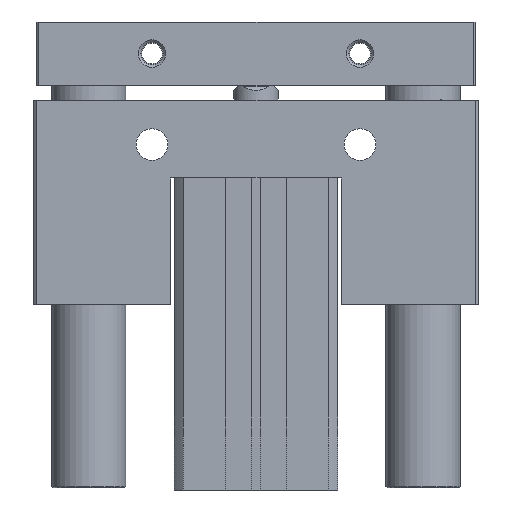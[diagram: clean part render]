
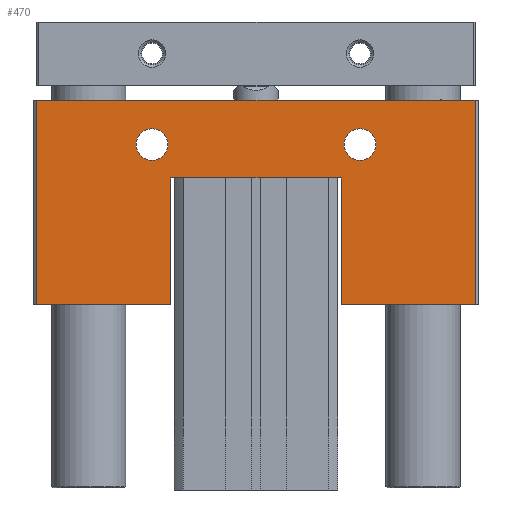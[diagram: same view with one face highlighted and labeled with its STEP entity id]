
A CAD part, front view. The second image highlights one B-rep face of the part: STEP entity #470.
In plain terms, the highlighted planar face has unit normal (0, -1, 0).
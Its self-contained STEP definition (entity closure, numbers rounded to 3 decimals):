
#199=CARTESIAN_POINT('',(-62.726,-23.62,105.));
#200=VERTEX_POINT('',#199);
#207=CARTESIAN_POINT('',(55.274,-23.62,105.));
#208=VERTEX_POINT('',#207);
#209=CARTESIAN_POINT('',(-62.726,-23.62,105.));
#210=DIRECTION('',(1.0,0.0,0.0));
#211=VECTOR('',#210,118.);
#212=LINE('',#209,#211);
#213=EDGE_CURVE('',#200,#208,#212,.T.);
#376=CARTESIAN_POINT('',(-62.726,-23.62,50.));
#377=VERTEX_POINT('',#376);
#384=CARTESIAN_POINT('',(-62.726,-23.62,50.));
#385=DIRECTION('',(0.0,0.0,1.0));
#386=VECTOR('',#385,55.);
#387=LINE('',#384,#386);
#388=EDGE_CURVE('',#377,#200,#387,.T.);
#393=CARTESIAN_POINT('',(-3.726,-23.62,79.533));
#394=DIRECTION('',(0.0,1.0,0.0));
#395=DIRECTION('',(0.0,0.0,1.0));
#396=AXIS2_PLACEMENT_3D('',#393,#394,#395);
#397=PLANE('',#396);
#398=ORIENTED_EDGE('',*,*,#388,.F.);
#399=CARTESIAN_POINT('',(-26.726,-23.62,50.));
#400=VERTEX_POINT('',#399);
#401=CARTESIAN_POINT('',(-26.726,-23.62,50.));
#402=DIRECTION('',(-1.0,0.0,0.0));
#403=VECTOR('',#402,36.0);
#404=LINE('',#401,#403);
#405=EDGE_CURVE('',#400,#377,#404,.T.);
#406=ORIENTED_EDGE('',*,*,#405,.F.);
#407=CARTESIAN_POINT('',(-26.726,-23.62,84.0));
#408=VERTEX_POINT('',#407);
#409=CARTESIAN_POINT('',(-26.726,-23.62,84.0));
#410=DIRECTION('',(0.0,0.0,-1.0));
#411=VECTOR('',#410,34.);
#412=LINE('',#409,#411);
#413=EDGE_CURVE('',#408,#400,#412,.T.);
#414=ORIENTED_EDGE('',*,*,#413,.F.);
#415=CARTESIAN_POINT('',(19.274,-23.62,84.0));
#416=VERTEX_POINT('',#415);
#417=CARTESIAN_POINT('',(19.274,-23.62,84.0));
#418=DIRECTION('',(-1.0,0.0,0.0));
#419=VECTOR('',#418,46.);
#420=LINE('',#417,#419);
#421=EDGE_CURVE('',#416,#408,#420,.T.);
#422=ORIENTED_EDGE('',*,*,#421,.F.);
#423=CARTESIAN_POINT('',(19.274,-23.62,50.));
#424=VERTEX_POINT('',#423);
#425=CARTESIAN_POINT('',(19.274,-23.62,50.));
#426=DIRECTION('',(0.0,0.0,1.0));
#427=VECTOR('',#426,34.);
#428=LINE('',#425,#427);
#429=EDGE_CURVE('',#424,#416,#428,.T.);
#430=ORIENTED_EDGE('',*,*,#429,.F.);
#431=CARTESIAN_POINT('',(55.274,-23.62,50.));
#432=VERTEX_POINT('',#431);
#433=CARTESIAN_POINT('',(55.274,-23.62,50.));
#434=DIRECTION('',(-1.0,0.0,0.0));
#435=VECTOR('',#434,36.);
#436=LINE('',#433,#435);
#437=EDGE_CURVE('',#432,#424,#436,.T.);
#438=ORIENTED_EDGE('',*,*,#437,.F.);
#439=CARTESIAN_POINT('',(55.274,-23.62,105.));
#440=DIRECTION('',(0.0,0.0,-1.0));
#441=VECTOR('',#440,55.);
#442=LINE('',#439,#441);
#443=EDGE_CURVE('',#208,#432,#442,.T.);
#444=ORIENTED_EDGE('',*,*,#443,.F.);
#445=ORIENTED_EDGE('',*,*,#213,.F.);
#446=EDGE_LOOP('',(#398,#406,#414,#422,#430,#438,#444,#445));
#447=FACE_OUTER_BOUND('',#446,.T.);
#448=CARTESIAN_POINT('',(-35.976,-23.62,93.));
#449=VERTEX_POINT('',#448);
#450=CARTESIAN_POINT('',(-31.726,-23.62,93.));
#451=DIRECTION('',(0.0,1.0,0.0));
#452=DIRECTION('',(1.0,0.0,0.0));
#453=AXIS2_PLACEMENT_3D('',#450,#451,#452);
#454=CIRCLE('',#453,4.25);
#455=EDGE_CURVE('',#449,#449,#454,.T.);
#456=ORIENTED_EDGE('',*,*,#455,.T.);
#457=EDGE_LOOP('',(#456));
#458=FACE_BOUND('',#457,.T.);
#459=CARTESIAN_POINT('',(20.024,-23.62,93.));
#460=VERTEX_POINT('',#459);
#461=CARTESIAN_POINT('',(24.274,-23.62,93.));
#462=DIRECTION('',(0.0,1.0,0.0));
#463=DIRECTION('',(1.0,0.0,0.0));
#464=AXIS2_PLACEMENT_3D('',#461,#462,#463);
#465=CIRCLE('',#464,4.25);
#466=EDGE_CURVE('',#460,#460,#465,.T.);
#467=ORIENTED_EDGE('',*,*,#466,.T.);
#468=EDGE_LOOP('',(#467));
#469=FACE_BOUND('',#468,.T.);
#470=ADVANCED_FACE('',(#447,#458,#469),#397,.F.);
